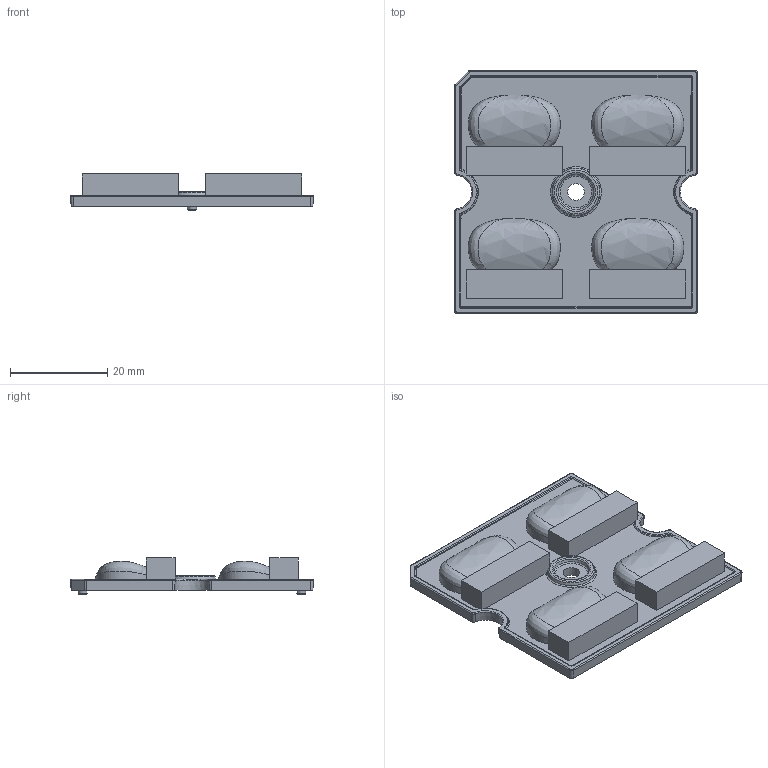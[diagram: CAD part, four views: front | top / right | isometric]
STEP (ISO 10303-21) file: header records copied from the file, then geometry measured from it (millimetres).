
FILE_DESCRIPTION(/* description */ ('Unknown'),/* implementation_level */ '2;1');
FILE_NAME(/* name */ '023-W0J-02',/* time_stamp */ '2023-11-14T17:26:07+01:00',/* author */ ('Unknown'),/* organization */ ('Unknown'),/* preprocessor_version */ 'ST-DEVELOPER v16.7',/* originating_system */ 'Solid Edge',/* authorisation */ 'Unknown');
FILE_SCHEMA (('AUTOMOTIVE_DESIGN {1 0 10303 214 3 1 1}'));
Length unit declared in the file: millimetre
Products named in the file (1): 023-W0J-02
Bounding box: 49.98 x 49.98 x 7.44 mm (x, y, z)
Volume: 8743 mm3; surface area: 7077.5 mm2
Topology: 1 solids, 1 shells, 425 faces, 1111 edges, 716 vertices
Faces by surface type: plane 251, cylinder 66, bspline 64, torus 36, cone 8
Entity records: 14727 total; most frequent: CARTESIAN_POINT 5171, ORIENTED_EDGE 2128, DIRECTION 1679, EDGE_CURVE 1064, VERTEX_POINT 701, LINE 577, VECTOR 577, AXIS2_PLACEMENT_3D 551
